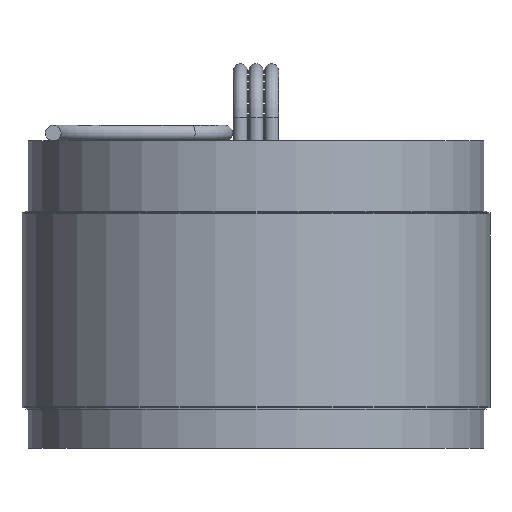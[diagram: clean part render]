
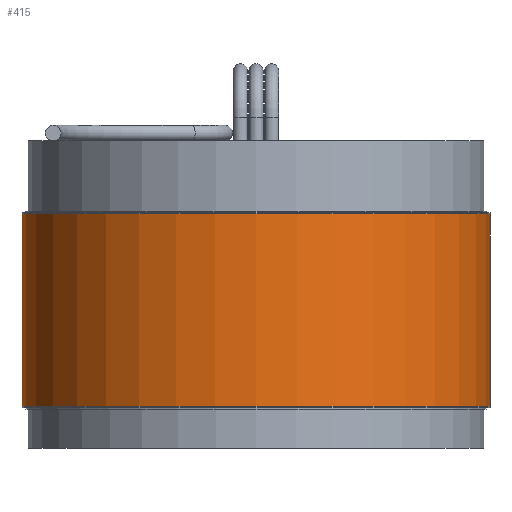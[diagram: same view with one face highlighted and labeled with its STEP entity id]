
A CAD part, front view. The second image highlights one B-rep face of the part: STEP entity #415.
In plain terms, the highlighted cylindrical face has radius 38.1 mm (diameter 76.2 mm), a full revolution.
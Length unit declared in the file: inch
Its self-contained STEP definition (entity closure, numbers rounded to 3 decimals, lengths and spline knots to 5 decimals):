
#101 = CARTESIAN_POINT ( 'NONE',  ( 0., 0., -0.61713 ) ) ;
#174 = AXIS2_PLACEMENT_3D ( 'NONE', #654, #634, #976 ) ;
#181 = VERTEX_POINT ( 'NONE', #403 ) ;
#311 = AXIS2_PLACEMENT_3D ( 'NONE', #101, #871, #881 ) ;
#393 = CIRCLE ( 'NONE', #311, 1.5 ) ;
#403 = CARTESIAN_POINT ( 'NONE',  ( 1.5, 0., -0.61713 ) ) ;
#415 = ADVANCED_FACE ( 'NONE', ( #494, #683 ), #475, .T. ) ;
#428 = CARTESIAN_POINT ( 'NONE',  ( 0., 0., -0.635 ) ) ;
#467 = EDGE_CURVE ( 'NONE', #181, #181, #393, .T. ) ;
#475 = CYLINDRICAL_SURFACE ( 'NONE', #651, 1.5 ) ;
#494 = FACE_OUTER_BOUND ( 'NONE', #1045, .T. ) ;
#622 = CARTESIAN_POINT ( 'NONE',  ( 1.5, 0., 0.61713 ) ) ;
#634 = DIRECTION ( 'NONE',  ( 0., 0., 1. ) ) ;
#651 = AXIS2_PLACEMENT_3D ( 'NONE', #428, #741, #865 ) ;
#654 = CARTESIAN_POINT ( 'NONE',  ( 0., 0., 0.61713 ) ) ;
#683 = FACE_OUTER_BOUND ( 'NONE', #815, .T. ) ;
#702 = ORIENTED_EDGE ( 'NONE', *, *, #1148, .F. ) ;
#741 = DIRECTION ( 'NONE',  ( 0., 0., 1. ) ) ;
#815 = EDGE_LOOP ( 'NONE', ( #943 ) ) ;
#865 = DIRECTION ( 'NONE',  ( 1., 0., 0. ) ) ;
#871 = DIRECTION ( 'NONE',  ( 0., 0., 1. ) ) ;
#881 = DIRECTION ( 'NONE',  ( 1., 0., 0. ) ) ;
#943 = ORIENTED_EDGE ( 'NONE', *, *, #467, .T. ) ;
#976 = DIRECTION ( 'NONE',  ( 1., 0., 0. ) ) ;
#1045 = EDGE_LOOP ( 'NONE', ( #702 ) ) ;
#1148 = EDGE_CURVE ( 'NONE', #1197, #1197, #1405, .T. ) ;
#1197 = VERTEX_POINT ( 'NONE', #622 ) ;
#1405 = CIRCLE ( 'NONE', #174, 1.5 ) ;
